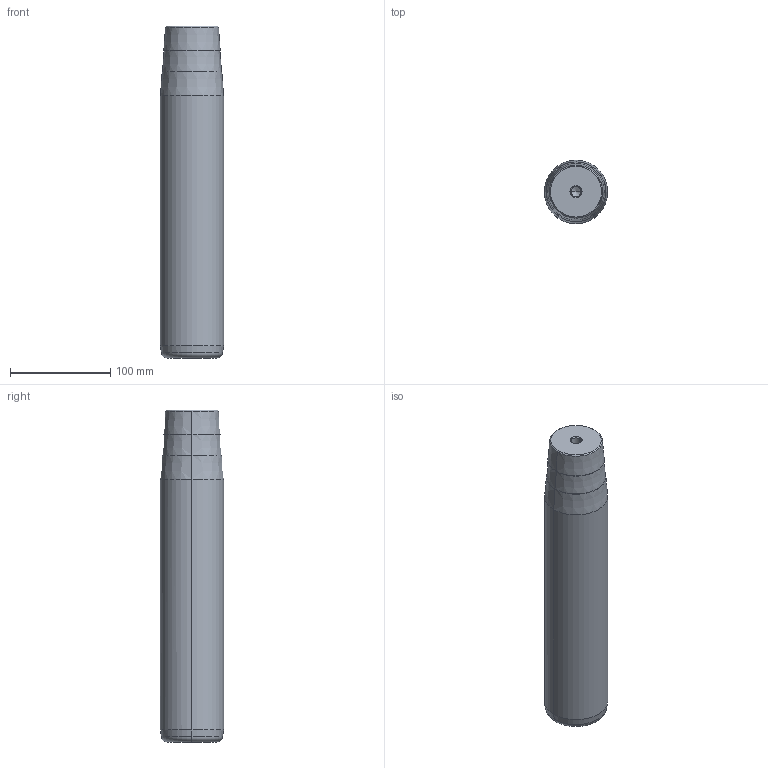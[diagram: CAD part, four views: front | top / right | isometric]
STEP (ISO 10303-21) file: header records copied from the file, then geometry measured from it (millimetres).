
FILE_DESCRIPTION(('CATIA V5 STEP Exchange'),'2;1');
FILE_NAME('C:\Users\Utente\Desktop\IO LAVORO\3D X SITO CF\X SITO\722\722-63x280x331.stp','2021-01-07T19:22:05+00:00',('none'),('none'),'CATIA Version 5 Release 20 GA (IN-10)','CATIA V5 STEP AP203','none');
FILE_SCHEMA(('CONFIG_CONTROL_DESIGN'));
Length unit declared in the file: millimetre
Products named in the file (1): 722-63x280x331
Bounding box: 63 x 63 x 331 mm (x, y, z)
Volume: 990019.1 mm3; surface area: 70760 mm2
Topology: 1 solids, 1 shells, 32 faces, 66 edges, 34 vertices
Faces by surface type: cone 22, cylinder 6, plane 2, torus 2
Entity records: 878 total; most frequent: CARTESIAN_POINT 203, ORIENTED_EDGE 124, DIRECTION 122, AXIS2_PLACEMENT_3D 63, EDGE_CURVE 62, EDGE_LOOP 34, VERTEX_POINT 34, ADVANCED_FACE 32
